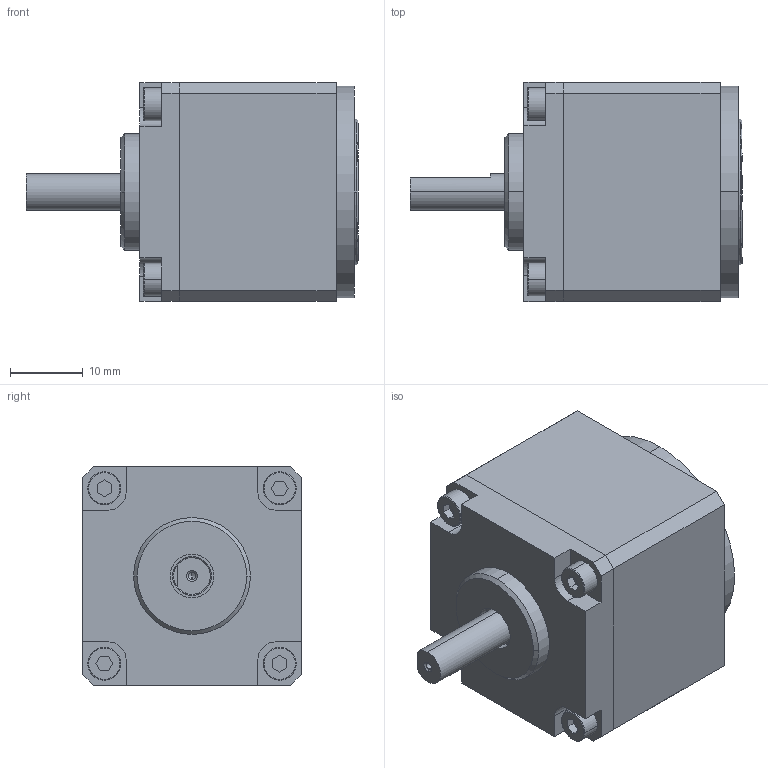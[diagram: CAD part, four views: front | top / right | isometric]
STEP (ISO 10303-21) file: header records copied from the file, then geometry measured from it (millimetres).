
FILE_DESCRIPTION (( 'STEP AP214' ), '1' );
FILE_NAME ('CSF-08-xxx-1U-E.STEP', '2022-05-08T08:16:05', ( 'PC' ), ( 'Microsoft' ), 'SwSTEP 2.0', 'SolidWorks 2016', '' );
FILE_SCHEMA (( 'AUTOMOTIVE_DESIGN' ));
Length unit declared in the file: millimetre
Products named in the file (15): CSF-08-1U-疏楷汜ん_蕼偞; 旮僱⑩粣創 618罕5_蕼偞; 柔性轴承19.63x14.22x3.3x3.1_預設; CSF-08-1U-05_蕼偞; CSF-08-1U-06_蕼偞; CSF-08-1U-03_蕼偞; CSF-08-1U-02_蕼偞; 躇猾蚐猾20x26x4_蕼偞; CSF-08蝠脫粣創_蕼偞; CSF-08-交叉轴承内圈_1; CSF-08-交叉轴承外圈_1; CSF-08-1U-01_蕼偞; CSF-08-xxx-1U-E; 内六螺钉  M2.5×6_預設; CSF-08-1U-07_蕼偞
Assembly tree (18 placements, depth 3):
  CSF-08-xxx-1U-E
    CSF-08-1U-01_蕼偞
    CSF-08蝠脫粣創_蕼偞
      CSF-08-交叉轴承外圈_1
      CSF-08-交叉轴承内圈_1
    躇猾蚐猾20x26x4_蕼偞
    CSF-08-1U-02_蕼偞
    CSF-08-1U-03_蕼偞
    CSF-08-1U-06_蕼偞
    CSF-08-1U-疏楷汜ん_蕼偞
      CSF-08-1U-05_蕼偞
      柔性轴承19.63x14.22x3.3x3.1_預設
      旮僱⑩粣創 618罕5_蕼偞  x2
    CSF-08-1U-07_蕼偞
    内六螺钉  M2.5×6_預設  x4
Bounding box: 45.5 x 30 x 30 mm (x, y, z)
Volume: 24138.9 mm3; surface area: 21469.8 mm2
Topology: 44 solids, 44 shells, 778 faces, 1932 edges, 1212 vertices
Faces by surface type: cylinder 292, plane 200, sphere 110, cone 100, torus 60, bspline 16
Entity records: 23549 total; most frequent: CARTESIAN_POINT 4125, DIRECTION 2882, ORIENTED_EDGE 2450, AXIS2_PLACEMENT_3D 1235, EDGE_CURVE 1225, VERTEX_POINT 790, CIRCLE 679, EDGE_LOOP 657
